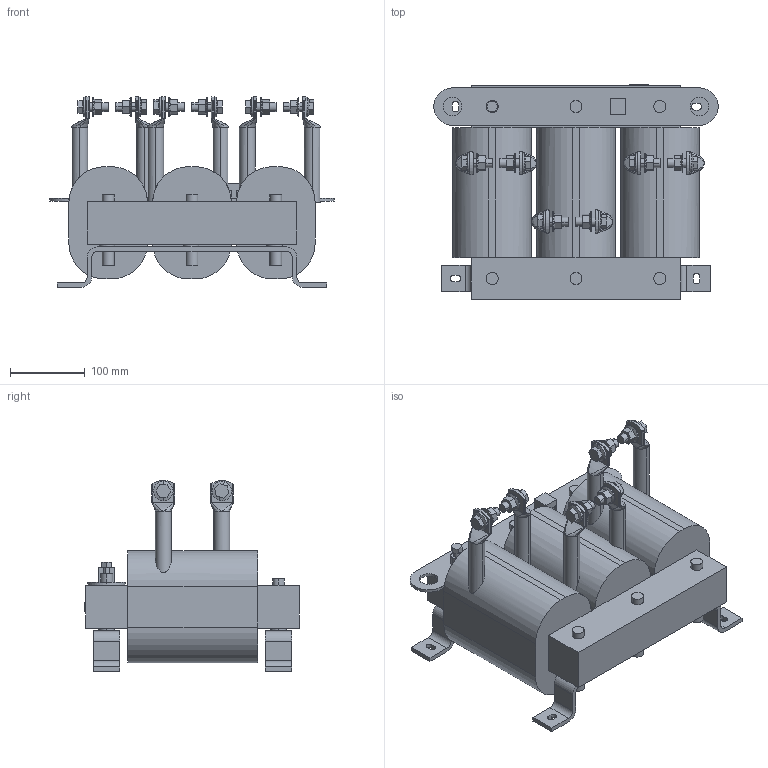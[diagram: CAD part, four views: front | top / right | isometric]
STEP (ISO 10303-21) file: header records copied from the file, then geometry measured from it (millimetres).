
FILE_DESCRIPTION (( 'STEP AP214' ), '1' );
FILE_NAME ('00Z1BX0-0028.STEP', '2024-05-15T08:11:20', ( '' ), ( '' ), 'SwSTEP 2.0', 'SolidWorks 2022', '' );
FILE_SCHEMA (( 'AUTOMOTIVE_DESIGN' ));
Length unit declared in the file: millimetre
Products named in the file (1): 00Z1BX0-0028
Bounding box: 380 x 287.12 x 254.91 mm (x, y, z)
Volume: 9527211.3 mm3; surface area: 538670.1 mm2
Topology: 1 solids, 1 shells, 599 faces, 1504 edges, 964 vertices
Faces by surface type: plane 297, cylinder 204, bspline 62, cone 24, torus 12
Entity records: 22669 total; most frequent: CARTESIAN_POINT 8568, ORIENTED_EDGE 3008, DIRECTION 2611, EDGE_CURVE 1504, VERTEX_POINT 964, AXIS2_PLACEMENT_3D 919, LINE 773, VECTOR 773
